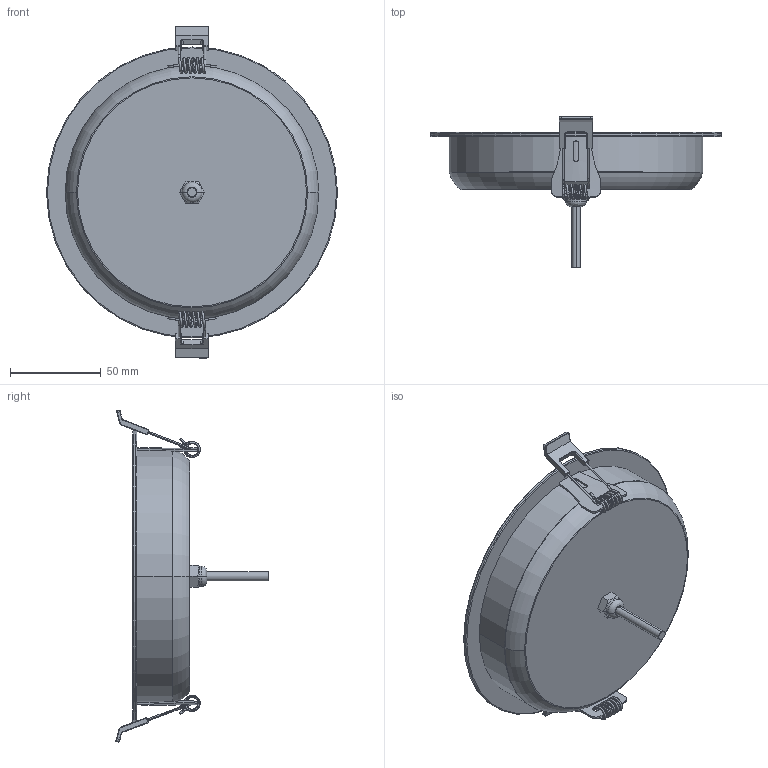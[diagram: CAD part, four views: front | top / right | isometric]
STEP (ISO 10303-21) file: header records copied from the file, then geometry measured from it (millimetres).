
FILE_DESCRIPTION((''),'2;1');
FILE_NAME('ASM0001_ASM','2026-06-25T15:08:40',('Administrator'),(''),'CREO PARAMETRIC BY PTC INC, 2021164','CREO PARAMETRIC BY PTC INC, 2021164','');
FILE_SCHEMA(('CONFIG_CONTROL_DESIGN','SHAPE_APPEARANCE_LAYERS_GROUPS'));
Length unit declared in the file: millimetre
Products named in the file (7): KL-CL-D120-15W; PRT0001; PRT0002; PRT0003; PRT0004; ASM0002_ASM; ASM0001_ASM
Assembly tree (9 placements, depth 3):
  ASM0001_ASM
    KL-CL-D120-15W
    PRT0001  x2
    PRT0002  x2
    ASM0002_ASM  x2
      PRT0003
      PRT0004
Bounding box: 160.5 x 83.96 x 183.18 mm (x, y, z)
Volume: 445861.2 mm3; surface area: 60265.2 mm2
Topology: 9 solids, 9 shells, 374 faces, 840 edges, 488 vertices
Faces by surface type: cylinder 130, bspline 115, plane 76, torus 47, sphere 4, cone 2
Entity records: 14202 total; most frequent: CARTESIAN_POINT 6810, DIRECTION 927, ORIENTED_EDGE 922, PRESENTATION_STYLE_ASSIGNMENT 671, STYLED_ITEM 670, CURVE_STYLE 461, EDGE_CURVE 461, AXIS2_PLACEMENT_3D 391
